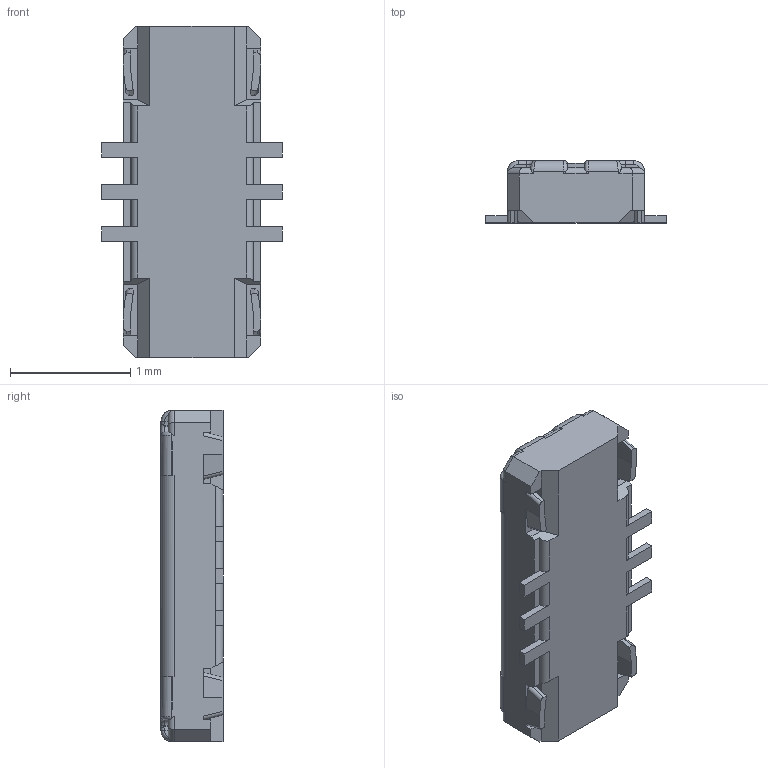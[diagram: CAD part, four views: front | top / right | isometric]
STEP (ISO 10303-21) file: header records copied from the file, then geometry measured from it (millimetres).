
FILE_DESCRIPTION(('CoCreate Modeling STEP Export'),'2;1');
FILE_NAME('3D_BM23P0.6-6DP-0.35V.stp','2015-06-26T 9:11:44',(''),(''),'CoCreate Modeling STEP processor for AP214 (Solid Model)','CoCreate Modeling 17.0 01-Apr-2010 (C) Parametric Technology GmbH','');
FILE_SCHEMA(('AUTOMOTIVE_DESIGN { 1 0 10303 214 1 1 1 1 }'));
Length unit declared in the file: millimetre
Products named in the file (2): BM23P0.6-6DP-0.35V
Assembly tree (1 placements, depth 2):
  BM23P0.6-6DP-0.35V
    BM23P0.6-6DP-0.35V
Bounding box: 1.5 x 0.52 x 2.75 mm (x, y, z)
Volume: 1.1 mm3; surface area: 12.2 mm2
Topology: 1 solids, 1 shells, 258 faces, 694 edges, 438 vertices
Faces by surface type: plane 146, cylinder 78, torus 22, bspline 12
Entity records: 7997 total; most frequent: CARTESIAN_POINT 1808, ORIENTED_EDGE 1388, DIRECTION 1168, EDGE_CURVE 694, VERTEX_POINT 438, VECTOR 436, LINE 436, AXIS2_PLACEMENT_3D 366
